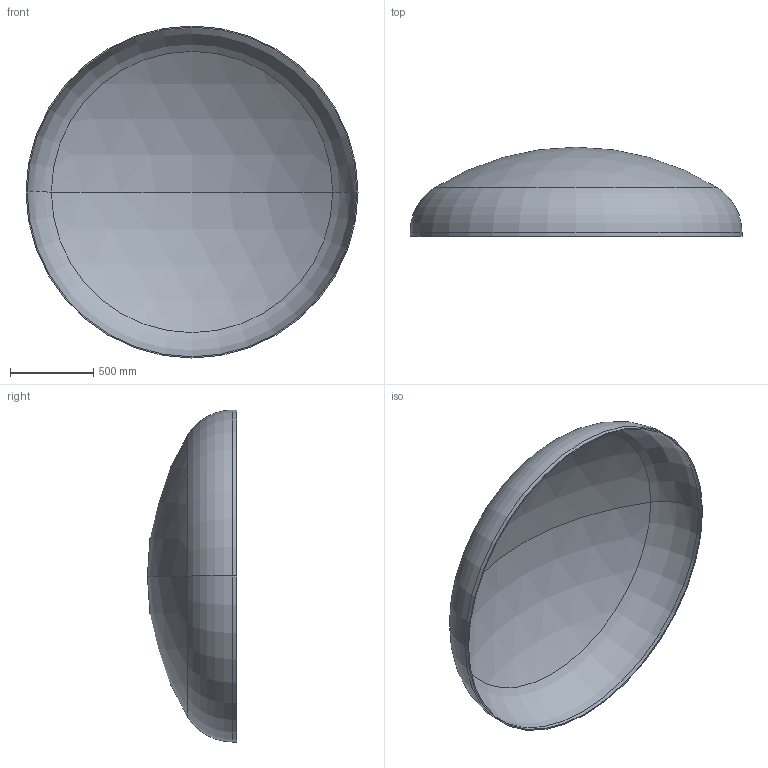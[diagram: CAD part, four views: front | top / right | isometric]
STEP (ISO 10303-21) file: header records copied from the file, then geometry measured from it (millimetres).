
FILE_DESCRIPTION (( 'STEP AP203' ), '1' );
FILE_NAME ('DIN 28013 Korbbogenform_-_Boden DIN 28013 - 2000 x 25 - I - s=7.step', '2016-07-01T13:33:52', ( '' ), ( '' ), 'SwSTEP 2.0', 'SolidWorks 2013', '' );
FILE_SCHEMA (( 'CONFIG_CONTROL_DESIGN' ));
Length unit declared in the file: millimetre
Products named in the file (1): DIN 28013 Korbbogenform_-_Boden DIN 28013 - 2000 x 25 - I - s=7
Bounding box: 2000 x 537.65 x 2000 mm (x, y, z)
Volume: 31452638.2 mm3; surface area: 9030395.4 mm2
Topology: 1 solids, 1 shells, 13 faces, 24 edges, 14 vertices
Faces by surface type: torus 4, cylinder 4, sphere 4, plane 1
Entity records: 407 total; most frequent: DIRECTION 72, CARTESIAN_POINT 52, ORIENTED_EDGE 48, AXIS2_PLACEMENT_3D 34, EDGE_CURVE 24, CIRCLE 20, EDGE_LOOP 14, VERTEX_POINT 14
